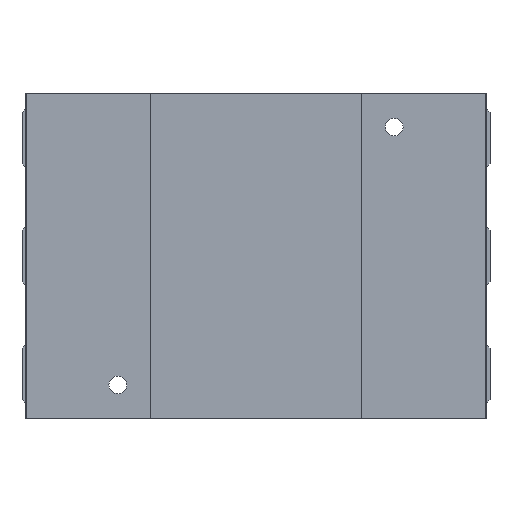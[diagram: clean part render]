
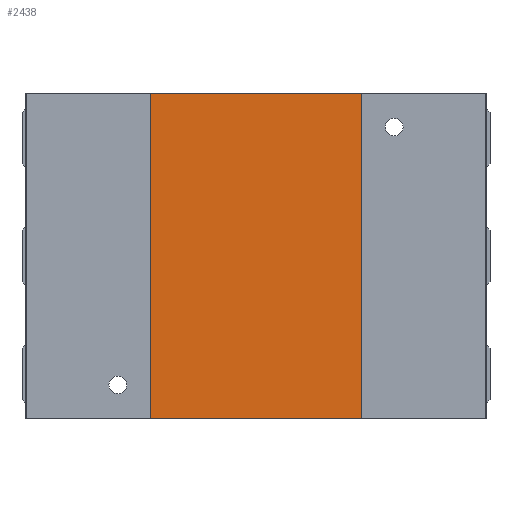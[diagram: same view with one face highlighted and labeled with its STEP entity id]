
A CAD part, left-side view. The second image highlights one B-rep face of the part: STEP entity #2438.
In plain terms, the highlighted planar face has unit normal (-1, 0, 0).
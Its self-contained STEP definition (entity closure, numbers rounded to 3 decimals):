
#2438 = ADVANCED_FACE( '', ( #6629 ), #6630, .T. );
#2936 = VERTEX_POINT( '', #7183 );
#3468 = EDGE_CURVE( '', #4386, #4458, #7774, .T. );
#3626 = EDGE_CURVE( '', #4458, #5026, #7939, .T. );
#3948 = EDGE_CURVE( '', #2936, #4386, #8295, .T. );
#4386 = VERTEX_POINT( '', #8777 );
#4458 = VERTEX_POINT( '', #8863 );
#5026 = VERTEX_POINT( '', #9488 );
#5816 = EDGE_CURVE( '', #2936, #5026, #10359, .T. );
#6629 = FACE_OUTER_BOUND( '', #11330, .T. );
#6630 = PLANE( '', #11331 );
#7183 = CARTESIAN_POINT( '', ( -116.2, 28.5, 44. ) );
#7774 = LINE( '', #12903, #12904 );
#7939 = LINE( '', #13150, #13151 );
#8295 = LINE( '', #13630, #13631 );
#8777 = CARTESIAN_POINT( '', ( -116.2, 28.5, -44. ) );
#8863 = CARTESIAN_POINT( '', ( -116.2, -28.5, -44. ) );
#9488 = CARTESIAN_POINT( '', ( -116.2, -28.5, 44. ) );
#10359 = LINE( '', #16525, #16526 );
#11330 = EDGE_LOOP( '', ( #17575, #17576, #17577, #17578 ) );
#11331 = AXIS2_PLACEMENT_3D( '', #17579, #17580, #17581 );
#12903 = CARTESIAN_POINT( '', ( -116.2, 62.5, -44. ) );
#12904 = VECTOR( '', #18810, 1. );
#13150 = CARTESIAN_POINT( '', ( -116.2, -28.5, 44. ) );
#13151 = VECTOR( '', #18944, 1. );
#13630 = CARTESIAN_POINT( '', ( -116.2, 28.5, 44. ) );
#13631 = VECTOR( '', #19351, 1. );
#16525 = CARTESIAN_POINT( '', ( -116.2, 62.5, 44. ) );
#16526 = VECTOR( '', #21561, 1. );
#17575 = ORIENTED_EDGE( '', *, *, #3626, .T. );
#17576 = ORIENTED_EDGE( '', *, *, #5816, .F. );
#17577 = ORIENTED_EDGE( '', *, *, #3948, .T. );
#17578 = ORIENTED_EDGE( '', *, *, #3468, .T. );
#17579 = CARTESIAN_POINT( '', ( -116.2, 62.5, 44. ) );
#17580 = DIRECTION( '', ( -1., 0., 0. ) );
#17581 = DIRECTION( '', ( 0., 1., 0. ) );
#18810 = DIRECTION( '', ( 0., -1., 0. ) );
#18944 = DIRECTION( '', ( 0., 0., 1. ) );
#19351 = DIRECTION( '', ( 0., 0., -1. ) );
#21561 = DIRECTION( '', ( 0., -1., 0. ) );
